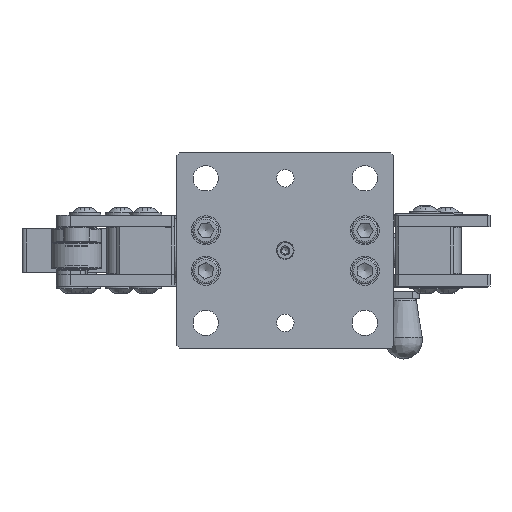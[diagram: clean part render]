
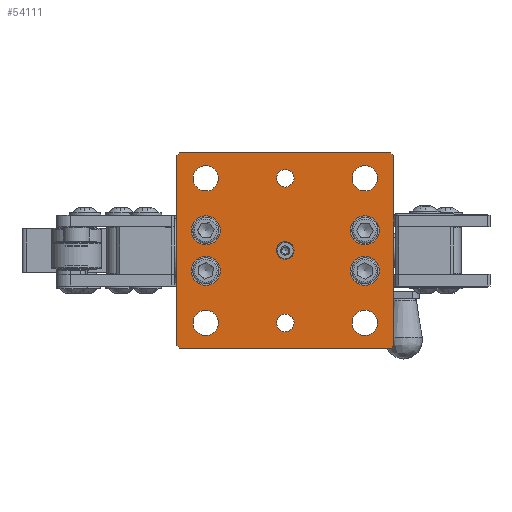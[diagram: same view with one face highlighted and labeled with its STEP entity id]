
A CAD part, left-side view. The second image highlights one B-rep face of the part: STEP entity #54111.
In plain terms, the highlighted planar face has unit normal (-1, 0, 0) as drawn and (0, 0, -1) by its records, which use the part's own axes.
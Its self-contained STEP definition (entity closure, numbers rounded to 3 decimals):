
#3874=FACE_BOUND('',#11934,.T.);
#3875=FACE_BOUND('',#11935,.T.);
#3876=FACE_BOUND('',#11936,.T.);
#3877=FACE_BOUND('',#11937,.T.);
#3878=FACE_BOUND('',#11938,.T.);
#3879=FACE_BOUND('',#11939,.T.);
#3880=FACE_BOUND('',#11940,.T.);
#3881=FACE_BOUND('',#11941,.T.);
#3882=FACE_BOUND('',#11942,.T.);
#3883=FACE_BOUND('',#11943,.T.);
#3884=FACE_BOUND('',#11944,.T.);
#5633=PLANE('',#56881);
#8442=FACE_OUTER_BOUND('',#11933,.T.);
#11933=EDGE_LOOP('',(#49882,#49883,#49884,#49885,#49886,#49887,#49888,#49889));
#11934=EDGE_LOOP('',(#49890));
#11935=EDGE_LOOP('',(#49891));
#11936=EDGE_LOOP('',(#49892));
#11937=EDGE_LOOP('',(#49893));
#11938=EDGE_LOOP('',(#49894));
#11939=EDGE_LOOP('',(#49895));
#11940=EDGE_LOOP('',(#49896));
#11941=EDGE_LOOP('',(#49897));
#11942=EDGE_LOOP('',(#49898));
#11943=EDGE_LOOP('',(#49899));
#11944=EDGE_LOOP('',(#49900));
#17217=LINE('',#94893,#22405);
#17224=LINE('',#94905,#22412);
#17230=LINE('',#94917,#22418);
#17232=LINE('',#94921,#22420);
#17234=LINE('',#94927,#22422);
#17236=LINE('',#94931,#22424);
#17241=LINE('',#94939,#22429);
#17244=LINE('',#94990,#22432);
#22405=VECTOR('',#66876,2.828);
#22412=VECTOR('',#66885,131.);
#22418=VECTOR('',#66895,2.828);
#22420=VECTOR('',#66899,146.);
#22422=VECTOR('',#66905,2.828);
#22424=VECTOR('',#66909,131.);
#22429=VECTOR('',#66916,2.828);
#22432=VECTOR('',#66983,146.);
#23188=CIRCLE('',#56807,6.05);
#23190=CIRCLE('',#56810,6.05);
#23192=CIRCLE('',#56813,6.05);
#23195=CIRCLE('',#56819,8.75);
#23199=CIRCLE('',#56826,8.75);
#23203=CIRCLE('',#56833,8.75);
#23206=CIRCLE('',#56839,8.75);
#23213=CIRCLE('',#56860,10.);
#23216=CIRCLE('',#56866,10.);
#23219=CIRCLE('',#56872,10.);
#23222=CIRCLE('',#56878,10.);
#27978=VERTEX_POINT('',#94834);
#27980=VERTEX_POINT('',#94839);
#27982=VERTEX_POINT('',#94844);
#27985=VERTEX_POINT('',#94853);
#27989=VERTEX_POINT('',#94864);
#27993=VERTEX_POINT('',#94875);
#27996=VERTEX_POINT('',#94884);
#27999=VERTEX_POINT('',#94890);
#28000=VERTEX_POINT('',#94892);
#28004=VERTEX_POINT('',#94903);
#28008=VERTEX_POINT('',#94915);
#28009=VERTEX_POINT('',#94919);
#28010=VERTEX_POINT('',#94924);
#28011=VERTEX_POINT('',#94926);
#28012=VERTEX_POINT('',#94930);
#28021=VERTEX_POINT('',#94959);
#28024=VERTEX_POINT('',#94968);
#28027=VERTEX_POINT('',#94977);
#28030=VERTEX_POINT('',#94986);
#35346=EDGE_CURVE('',#27978,#27978,#23188,.T.);
#35348=EDGE_CURVE('',#27980,#27980,#23190,.T.);
#35350=EDGE_CURVE('',#27982,#27982,#23192,.T.);
#35353=EDGE_CURVE('',#27985,#27985,#23195,.T.);
#35357=EDGE_CURVE('',#27989,#27989,#23199,.T.);
#35361=EDGE_CURVE('',#27993,#27993,#23203,.T.);
#35364=EDGE_CURVE('',#27996,#27996,#23206,.T.);
#35367=EDGE_CURVE('',#27999,#28000,#17217,.T.);
#35374=EDGE_CURVE('',#27999,#28004,#17224,.T.);
#35380=EDGE_CURVE('',#28008,#28004,#17230,.T.);
#35382=EDGE_CURVE('',#28008,#28009,#17232,.T.);
#35384=EDGE_CURVE('',#28010,#28011,#17234,.T.);
#35386=EDGE_CURVE('',#28012,#28011,#17236,.T.);
#35391=EDGE_CURVE('',#28012,#28009,#17241,.T.);
#35400=EDGE_CURVE('',#28021,#28021,#23213,.T.);
#35403=EDGE_CURVE('',#28024,#28024,#23216,.T.);
#35406=EDGE_CURVE('',#28027,#28027,#23219,.T.);
#35409=EDGE_CURVE('',#28030,#28030,#23222,.T.);
#35410=EDGE_CURVE('',#28010,#28000,#17244,.T.);
#49882=ORIENTED_EDGE('',*,*,#35367,.F.);
#49883=ORIENTED_EDGE('',*,*,#35374,.T.);
#49884=ORIENTED_EDGE('',*,*,#35380,.F.);
#49885=ORIENTED_EDGE('',*,*,#35382,.T.);
#49886=ORIENTED_EDGE('',*,*,#35391,.F.);
#49887=ORIENTED_EDGE('',*,*,#35386,.T.);
#49888=ORIENTED_EDGE('',*,*,#35384,.F.);
#49889=ORIENTED_EDGE('',*,*,#35410,.T.);
#49890=ORIENTED_EDGE('',*,*,#35346,.T.);
#49891=ORIENTED_EDGE('',*,*,#35348,.T.);
#49892=ORIENTED_EDGE('',*,*,#35350,.T.);
#49893=ORIENTED_EDGE('',*,*,#35353,.T.);
#49894=ORIENTED_EDGE('',*,*,#35357,.T.);
#49895=ORIENTED_EDGE('',*,*,#35361,.T.);
#49896=ORIENTED_EDGE('',*,*,#35364,.T.);
#49897=ORIENTED_EDGE('',*,*,#35400,.T.);
#49898=ORIENTED_EDGE('',*,*,#35403,.T.);
#49899=ORIENTED_EDGE('',*,*,#35406,.T.);
#49900=ORIENTED_EDGE('',*,*,#35409,.T.);
#54111=ADVANCED_FACE('',(#8442,#3874,#3875,#3876,#3877,#3878,#3879,#3880,
#3881,#3882,#3883,#3884),#5633,.F.);
#56807=AXIS2_PLACEMENT_3D('',#94835,#66806,#66807);
#56810=AXIS2_PLACEMENT_3D('',#94840,#66812,#66813);
#56813=AXIS2_PLACEMENT_3D('',#94845,#66818,#66819);
#56819=AXIS2_PLACEMENT_3D('',#94854,#66830,#66831);
#56826=AXIS2_PLACEMENT_3D('',#94865,#66844,#66845);
#56833=AXIS2_PLACEMENT_3D('',#94876,#66858,#66859);
#56839=AXIS2_PLACEMENT_3D('',#94885,#66870,#66871);
#56860=AXIS2_PLACEMENT_3D('',#94960,#66941,#66942);
#56866=AXIS2_PLACEMENT_3D('',#94969,#66953,#66954);
#56872=AXIS2_PLACEMENT_3D('',#94978,#66965,#66966);
#56878=AXIS2_PLACEMENT_3D('',#94987,#66977,#66978);
#56881=AXIS2_PLACEMENT_3D('',#94991,#66984,#66985);
#66806=DIRECTION('center_axis',(0.,0.,1.));
#66807=DIRECTION('ref_axis',(1.,0.,0.));
#66812=DIRECTION('center_axis',(0.,0.,1.));
#66813=DIRECTION('ref_axis',(1.,0.,0.));
#66818=DIRECTION('center_axis',(0.,0.,1.));
#66819=DIRECTION('ref_axis',(1.,0.,0.));
#66830=DIRECTION('center_axis',(0.,0.,1.));
#66831=DIRECTION('ref_axis',(1.,0.,0.));
#66844=DIRECTION('center_axis',(0.,0.,1.));
#66845=DIRECTION('ref_axis',(1.,0.,0.));
#66858=DIRECTION('center_axis',(0.,0.,1.));
#66859=DIRECTION('ref_axis',(1.,0.,0.));
#66870=DIRECTION('center_axis',(0.,0.,1.));
#66871=DIRECTION('ref_axis',(1.,0.,0.));
#66876=DIRECTION('',(-0.707,-0.707,0.));
#66885=DIRECTION('',(1.,0.,0.));
#66895=DIRECTION('',(-0.707,0.707,0.));
#66899=DIRECTION('',(0.,-1.,0.));
#66905=DIRECTION('',(0.707,-0.707,0.));
#66909=DIRECTION('',(-1.,0.,0.));
#66916=DIRECTION('',(0.707,0.707,0.));
#66941=DIRECTION('center_axis',(0.,0.,1.));
#66942=DIRECTION('ref_axis',(-1.,0.,0.));
#66953=DIRECTION('center_axis',(0.,0.,1.));
#66954=DIRECTION('ref_axis',(-1.,0.,0.));
#66965=DIRECTION('center_axis',(0.,0.,1.));
#66966=DIRECTION('ref_axis',(-1.,0.,0.));
#66977=DIRECTION('center_axis',(0.,0.,1.));
#66978=DIRECTION('ref_axis',(-1.,0.,0.));
#66983=DIRECTION('',(0.,1.,0.));
#66984=DIRECTION('center_axis',(0.,0.,1.));
#66985=DIRECTION('ref_axis',(1.,0.,0.));
#94834=CARTESIAN_POINT('',(-6.05,0.,0.));
#94835=CARTESIAN_POINT('Origin',(0.,0.,0.));
#94839=CARTESIAN_POINT('',(-56.05,0.,0.));
#94840=CARTESIAN_POINT('Origin',(-50.,0.,0.));
#94844=CARTESIAN_POINT('',(43.95,0.,0.));
#94845=CARTESIAN_POINT('Origin',(50.,0.,0.));
#94853=CARTESIAN_POINT('',(41.25,-55.,0.));
#94854=CARTESIAN_POINT('Origin',(50.,-55.,0.));
#94864=CARTESIAN_POINT('',(-58.75,55.,0.));
#94865=CARTESIAN_POINT('Origin',(-50.,55.,0.));
#94875=CARTESIAN_POINT('',(-58.75,-55.,0.));
#94876=CARTESIAN_POINT('Origin',(-50.,-55.,0.));
#94884=CARTESIAN_POINT('',(41.25,55.,0.));
#94885=CARTESIAN_POINT('Origin',(50.,55.,0.));
#94890=CARTESIAN_POINT('',(-65.5,75.,0.));
#94892=CARTESIAN_POINT('',(-67.5,73.,0.));
#94893=CARTESIAN_POINT('',(-68.375,72.125,0.));
#94903=CARTESIAN_POINT('',(65.5,75.,0.));
#94905=CARTESIAN_POINT('',(-67.5,75.,0.));
#94915=CARTESIAN_POINT('',(67.5,73.,0.));
#94917=CARTESIAN_POINT('',(68.375,72.125,0.));
#94919=CARTESIAN_POINT('',(67.5,-73.,0.));
#94921=CARTESIAN_POINT('',(67.5,75.,0.));
#94924=CARTESIAN_POINT('',(-67.5,-73.,0.));
#94926=CARTESIAN_POINT('',(-65.5,-75.,0.));
#94927=CARTESIAN_POINT('',(-68.375,-72.125,0.));
#94930=CARTESIAN_POINT('',(65.5,-75.,0.));
#94931=CARTESIAN_POINT('',(67.5,-75.,0.));
#94939=CARTESIAN_POINT('',(68.375,-72.125,0.));
#94959=CARTESIAN_POINT('',(-24.,-55.,0.));
#94960=CARTESIAN_POINT('Origin',(-14.,-55.,0.));
#94968=CARTESIAN_POINT('',(4.,55.,0.));
#94969=CARTESIAN_POINT('Origin',(14.,55.,0.));
#94977=CARTESIAN_POINT('',(4.,-55.,0.));
#94978=CARTESIAN_POINT('Origin',(14.,-55.,0.));
#94986=CARTESIAN_POINT('',(-24.,55.,0.));
#94987=CARTESIAN_POINT('Origin',(-14.,55.,0.));
#94990=CARTESIAN_POINT('',(-67.5,-75.,0.));
#94991=CARTESIAN_POINT('Origin',(0.,0.,0.));
